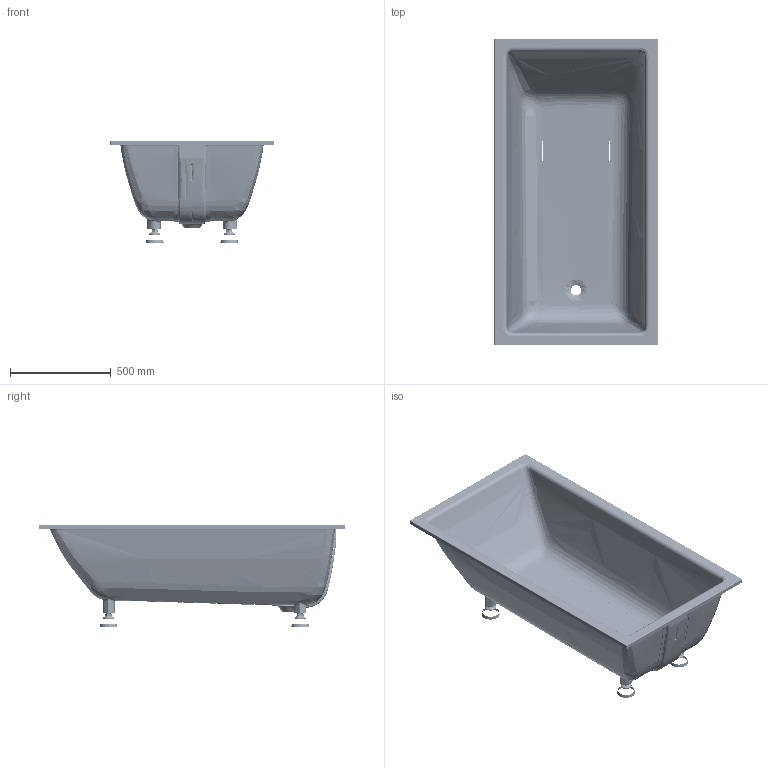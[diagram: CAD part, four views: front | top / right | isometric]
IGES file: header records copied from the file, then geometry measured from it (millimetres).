
Start section: SolidWorks IGES file using analytic representation for surfaces
Global section: file name: C:\Users\ccai\Desktop\3DX-GA-2-0007-N-IO-VA.IGS; native system: SolidWorks 2023; preprocessor: SolidWorks 2023; author: ccai; date: 250124.145718; units: metre
Bounding box: 810.5 x 1521 x 507.17 mm (x, y, z)
Surface area: 4899491.9 mm2 (no closed solid volume)
Topology: 0 solids, 0 shells, 2869 faces, 37298 edges, 37252 vertices
Faces by surface type: bspline 2089, revolution 780
